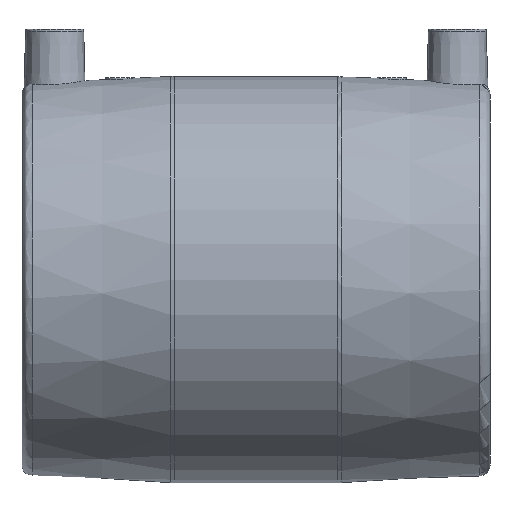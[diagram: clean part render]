
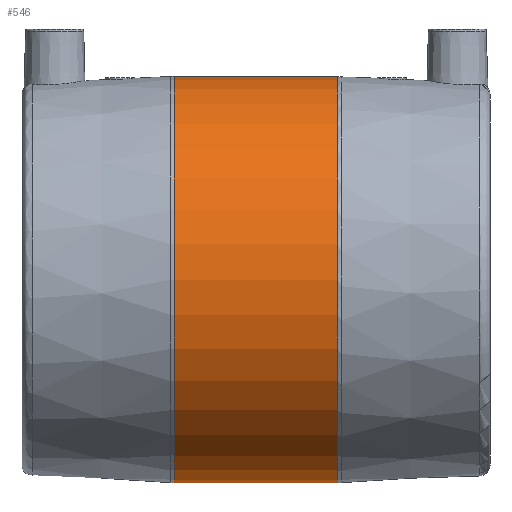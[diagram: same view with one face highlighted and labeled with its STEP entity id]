
A CAD part, front view. The second image highlights one B-rep face of the part: STEP entity #546.
In plain terms, the highlighted cylindrical face has radius 56 mm (diameter 112 mm), a full revolution.
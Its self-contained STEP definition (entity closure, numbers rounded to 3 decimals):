
#88=CYLINDRICAL_SURFACE('',#607,56.);
#112=CIRCLE('',#608,56.);
#113=CIRCLE('',#609,56.);
#156=ORIENTED_EDGE('',*,*,#286,.T.);
#157=ORIENTED_EDGE('',*,*,#287,.T.);
#286=EDGE_CURVE('',#350,#350,#112,.F.);
#287=EDGE_CURVE('',#351,#351,#113,.T.);
#350=VERTEX_POINT('',#942);
#351=VERTEX_POINT('',#944);
#408=EDGE_LOOP('',(#156));
#409=EDGE_LOOP('',(#157));
#478=FACE_BOUND('',#408,.T.);
#479=FACE_BOUND('',#409,.T.);
#546=ADVANCED_FACE('',(#478,#479),#88,.T.);
#607=AXIS2_PLACEMENT_3D('',#940,#697,#698);
#608=AXIS2_PLACEMENT_3D('',#941,#699,#700);
#609=AXIS2_PLACEMENT_3D('',#943,#701,#702);
#697=DIRECTION('',(-1.,0.,0.));
#698=DIRECTION('',(0.,0.,1.));
#699=DIRECTION('',(1.,0.,0.));
#700=DIRECTION('',(0.,0.,-1.));
#701=DIRECTION('',(1.,0.,0.));
#702=DIRECTION('',(0.,0.,-1.));
#940=CARTESIAN_POINT('',(-60.,0.,0.));
#941=CARTESIAN_POINT('',(22.518,0.,0.));
#942=CARTESIAN_POINT('',(22.518,0.,-56.));
#943=CARTESIAN_POINT('',(-22.518,0.,0.));
#944=CARTESIAN_POINT('',(-22.518,0.,-56.));
